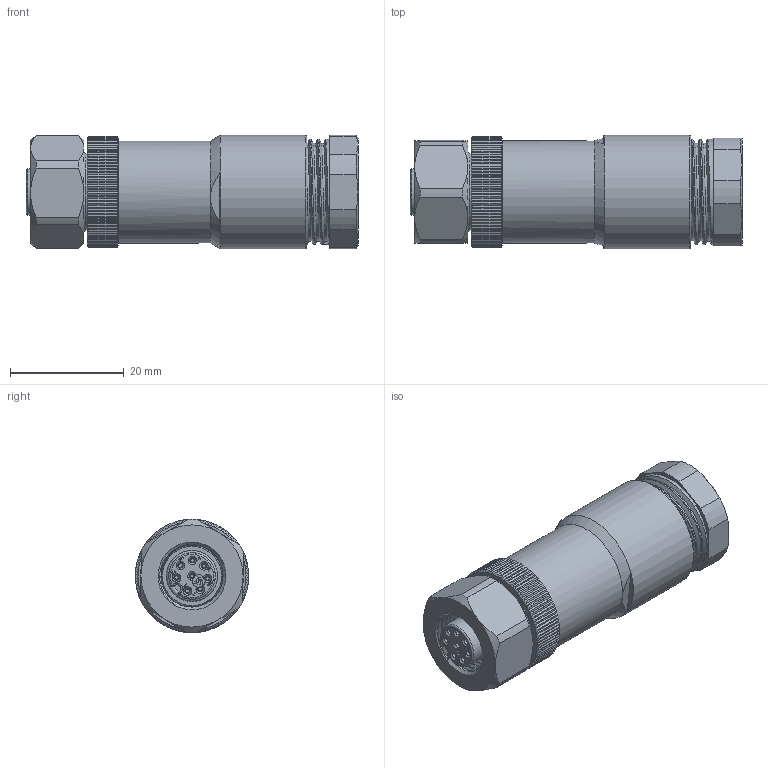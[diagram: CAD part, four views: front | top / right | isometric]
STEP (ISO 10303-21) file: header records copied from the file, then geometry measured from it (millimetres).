
FILE_DESCRIPTION(/* description */ (''),/* implementation_level */ '2;1');
FILE_NAME(/* name */ '99 0486 287 08 001_00.stp',/* time_stamp */ '2017-07-21T11:39:27+02:00',/* author */ (''),/* organization */ (''),/* preprocessor_version */ 'ST-DEVELOPER v16',/* originating_system */ 'SIEMENS PLM Software NX 11.0',/* authorisation */ '');
FILE_SCHEMA (('AUTOMOTIVE_DESIGN { 1 0 10303 214 3 1 1 1 }'));
Length unit declared in the file: millimetre
Products named in the file (1): smag1744FAF3fbcy
Bounding box: 58.45 x 19.95 x 20 mm (x, y, z)
Volume: 15088.4 mm3; surface area: 6791.6 mm2
Topology: 1 solids, 3 shells, 646 faces, 1733 edges, 1143 vertices
Faces by surface type: plane 349, cylinder 163, extrusion 65, cone 30, bspline 30, torus 6, sphere 3
Full cylindrical faces by diameter (mm): 0.9 x8, 1.35 x8, 8.2 x1, 10.9 x1, 10.95 x6, 11.3 x1, 13.5 x1, 14.5 x1, 16.5 x1, 18 x1, 19 x1, 20 x1
Entity records: 28927 total; most frequent: CARTESIAN_POINT 13870, ORIENTED_EDGE 3296, DIRECTION 2731, EDGE_CURVE 1648, VERTEX_POINT 1107, AXIS2_PLACEMENT_3D 943, VECTOR 845, LINE 780
